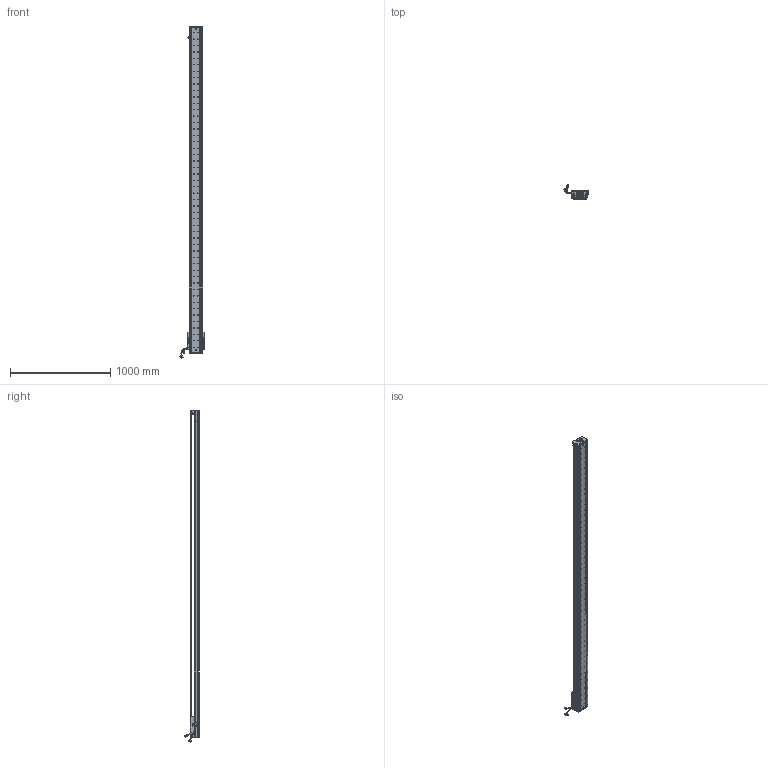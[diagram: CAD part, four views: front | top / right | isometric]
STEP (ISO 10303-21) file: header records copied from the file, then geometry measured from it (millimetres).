
FILE_DESCRIPTION (( 'STEP AP203' ), '1' );
FILE_NAME ('Z2-RY140D-1-L500-B-K.SLDASM_3000.step', '2021-05-17T07:52:13', ( '盈信电脑' ), ( '东莞市道滘镇水果街19号' ), 'SwSTEP 2.0', 'SolidWorks 2016', '' );
FILE_SCHEMA (( 'CONFIG_CONTROL_DESIGN' ));
Length unit declared in the file: millimetre
Products named in the file (36): HOLDER0; SHIELDPLATE; 140蚥薯蝶輸; Z2-RY140-L500直线电机模组底座_3000; SCREW-M1.6; SCREW-M1.6-2; Z2-RY140D-1-L500-B-K.SLDASM_3000; 140雄赽晤鎢ん堤盄; LABEL-Part-1; Z-RY140感应器672光电感应片; SEAL; HARNESS-Part-1; SCALE-Part-2; COVER; HARNESS; 榋妏寠巭燃_暯_M2_2; Z-RY140詩湍狟揤裔; SCREW-M1.7-1; PBU_SHEET; SCREW-M1.6-3; SCALE; Z2-RY140圉猾敕臏賑輸(21遴); SCALE-Part-1; Z-140詩湍傷裔啣; Z2-RY140-L500詩湍100mm遵_3000; Z-RY140詩湍奻揤裔; SEAL-Part-1; COVER-Part-1; 覜茼ん672; 140-Z-臏賑輸盄裔(21遴); LABEL; PSLH080_PSLF2; SCREW-M1.6-1; HARNESS-Part-2; 080黍杅芛假蚾釱21遴; SCREW-M1.7
Assembly tree (41 placements, depth 4):
  Z2-RY140D-1-L500-B-K.SLDASM_3000
    Z2-RY140-L500直线电机模组底座_3000
    Z-RY140感应器672光电感应片
    Z2-RY140圉猾敕臏賑輸(21遴)
    覜茼ん672  x3
    Z2-RY140-L500詩湍100mm遵_3000
    PSLH080_PSLF2
      SCALE
        SCALE-Part-1
        SCALE-Part-2
      HARNESS
        HARNESS-Part-1
        HARNESS-Part-2
      LABEL
        LABEL-Part-1
      COVER
        COVER-Part-1
      SEAL
        SEAL-Part-1
      榋妏寠巭燃_暯_M2_2
      SHIELDPLATE
      SCREW-M1.7
      SCREW-M1.7-1
      PBU_SHEET
      SCREW-M1.6
      SCREW-M1.6-1
      SCREW-M1.6-2
      SCREW-M1.6-3
      HOLDER0
    080黍杅芛假蚾釱21遴
    140-Z-臏賑輸盄裔(21遴)
    Z-140詩湍傷裔啣  x2
    Z-RY140詩湍狟揤裔  x2
    Z-RY140詩湍奻揤裔  x2
    140蚥薯蝶輸  x2
    140雄赽晤鎢ん堤盄
Bounding box: 239.79 x 143.77 x 3310.87 mm (x, y, z)
Volume: 10178342.8 mm3; surface area: 2677764.4 mm2
Topology: 36 solids, 36 shells, 4596 faces, 12620 edges, 8002 vertices
Faces by surface type: cylinder 2570, plane 1464, cone 430, torus 79, bspline 53
Entity records: 149256 total; most frequent: CARTESIAN_POINT 43542, ORIENTED_EDGE 22092, DIRECTION 20048, EDGE_CURVE 11046, AXIS2_PLACEMENT_3D 7476, VERTEX_POINT 7170, LINE 5096, VECTOR 5096
